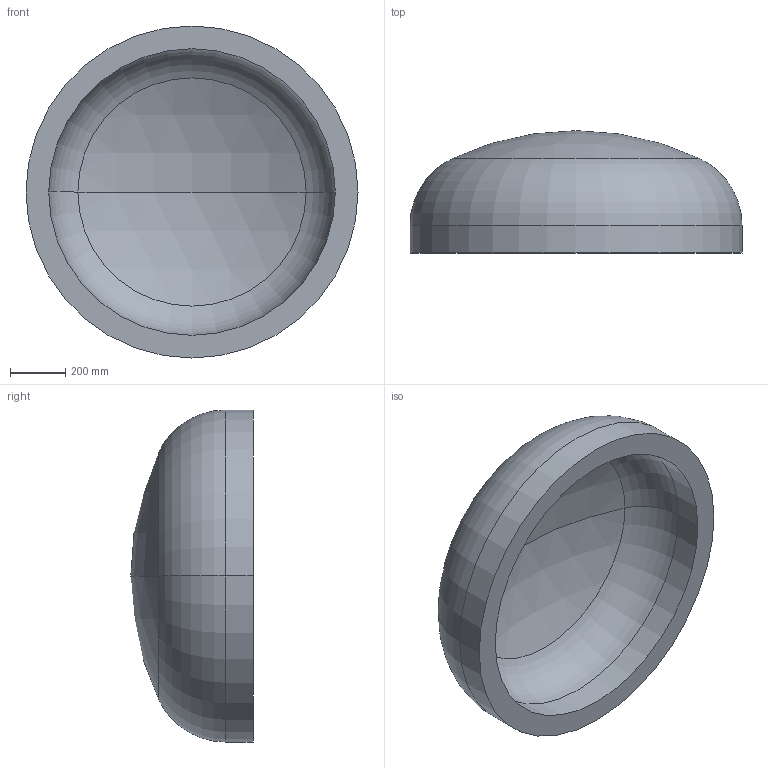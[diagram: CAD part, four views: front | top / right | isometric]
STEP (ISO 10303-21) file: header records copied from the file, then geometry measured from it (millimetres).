
FILE_DESCRIPTION (( 'STEP AP203' ), '1' );
FILE_NAME ('DIN 28013 Korbbogenform_-_Boden DIN 28013 - 1200 x 100 - I - s=82.step', '2016-07-01T09:35:22', ( '' ), ( '' ), 'SwSTEP 2.0', 'SolidWorks 2013', '' );
FILE_SCHEMA (( 'CONFIG_CONTROL_DESIGN' ));
Length unit declared in the file: millimetre
Products named in the file (1): DIN 28013 Korbbogenform_-_Boden DIN 28013 - 1200 x 100 - I - s=82
Bounding box: 1200 x 442.19 x 1200 mm (x, y, z)
Volume: 146623148.3 mm3; surface area: 3878265 mm2
Topology: 1 solids, 1 shells, 13 faces, 24 edges, 14 vertices
Faces by surface type: torus 4, cylinder 4, sphere 4, plane 1
Entity records: 407 total; most frequent: DIRECTION 72, CARTESIAN_POINT 52, ORIENTED_EDGE 48, AXIS2_PLACEMENT_3D 34, EDGE_CURVE 24, CIRCLE 20, EDGE_LOOP 14, VERTEX_POINT 14
